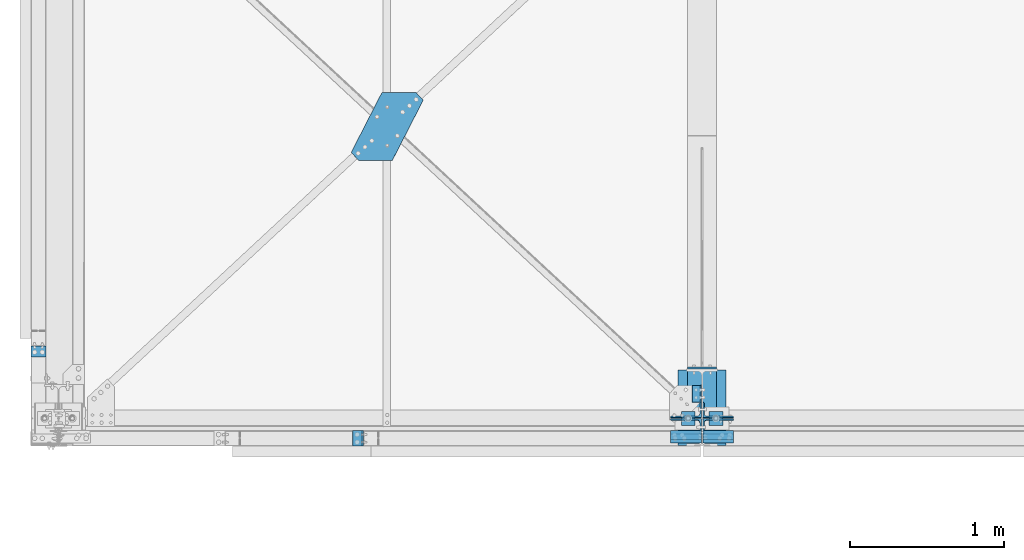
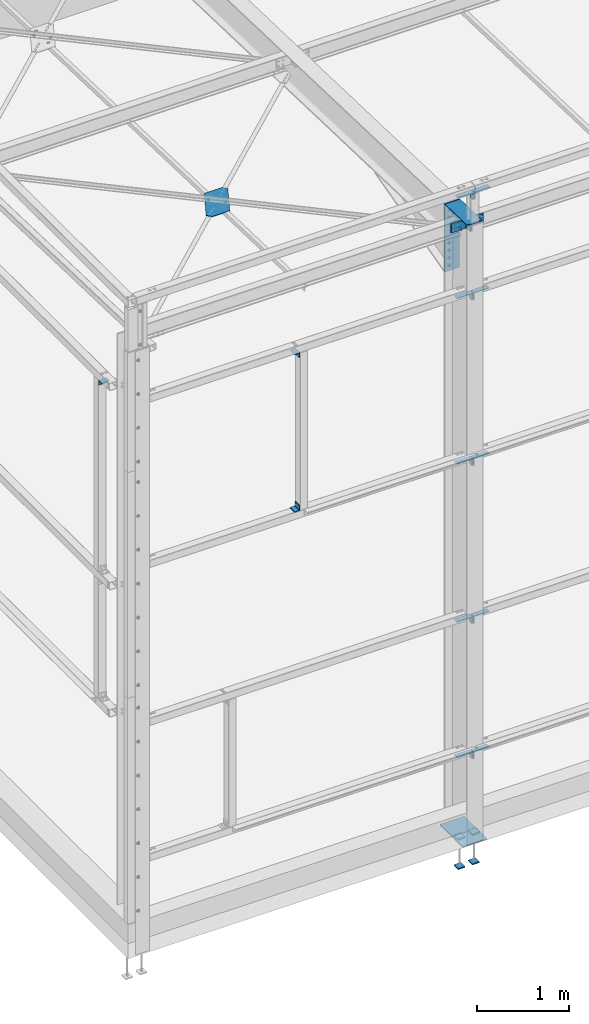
# One storey, part 62 of 362: 23 beams, 4 members, 23 elements without a shape of their own.
"""IFC2X3 building model written with IfcOpenShell, lengths in millimetres."""

from ifc_helpers import new_model, si_unit, frame, origin_with_axes, origin_2d_with_axis, place, context, subcontext, project, spatial, polyline, rectangle, l_section, outline, extrude, material, type_object, element, aggregate, save


model = new_model("IFC2X3")

# Units and contexts
model_context = context("Model", 3, precision=1e-05, world=origin_with_axes())
body_context = subcontext(model_context, "Body", "Model", "MODEL_VIEW")
ifc_project = project(units=[si_unit("LENGTHUNIT", "METRE", prefix="MILLI"), si_unit("AREAUNIT", "SQUARE_METRE"), si_unit("VOLUMEUNIT", "CUBIC_METRE"), si_unit("MASSUNIT", "GRAM", prefix="KILO"), si_unit("TIMEUNIT", "SECOND"), si_unit("PLANEANGLEUNIT", "RADIAN"), si_unit("SOLIDANGLEUNIT", "STERADIAN"), si_unit("THERMODYNAMICTEMPERATUREUNIT", "DEGREE_CELSIUS"), si_unit("LUMINOUSINTENSITYUNIT", "LUMEN")], contexts=[model_context])

# Site, building, storey
site_placement = place(None, origin_with_axes())
site = spatial("IfcSite", under=ifc_project, at=site_placement, Name="Undefined", CompositionType="ELEMENT")
building_placement = place(site_placement, origin_with_axes())
building = spatial("IfcBuilding", under=site, at=building_placement, Name="Undefined", CompositionType="ELEMENT")
storey_placement = place(building_placement, origin_with_axes())
storey = spatial("IfcBuildingStorey", under=building, at=storey_placement, Name="Undefined", CompositionType="ELEMENT", Elevation=0.0)

# Assembly, beam
assembly_1_placement = place(storey_placement, origin_with_axes())
assembly_1 = element("IfcElementAssembly", 1, at=assembly_1_placement, inside=storey, Name="Steel Assembly", AssemblyPlace="NOTDEFINED", PredefinedType="RIGID_FRAME")
ifc_material_1 = material(Name="STEEL/S235 --------------")
beam_type_1 = type_object("IfcBeamType", Name="L60*5", PredefinedType="NOTDEFINED")
beam_1_placement = place(assembly_1_placement, frame((4144.89999331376, 103.610528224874, 7810.51283147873), z_axis=(0.0, -0.0324574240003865, -0.999473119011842), x_axis=(0.0, 0.999473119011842, -0.0324574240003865)))
beam_1 = element("IfcBeam", 2, at=beam_1_placement, type_object=beam_type_1, material=ifc_material_1, Name="CORNIERE", ObjectType="L60*5", context=body_context, shape_type="SweptSolid", body=[
    extrude(l_section(Depth=60.0, Width=60.0, Thickness=5.0, FilletRadius=8.0, EdgeRadius=4.0, at=origin_2d_with_axis()), frame((109.9974094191, 0.0, 0.0), z_axis=(-1.0, 0.0, 0.0), x_axis=(0.0, -1.0, 0.0)), (0.0, 0.0, 1.0), 110.0),
])
aggregate(assembly_1, [beam_1])

assembly_2_placement = place(storey_placement, origin_with_axes())
assembly_2 = element("IfcElementAssembly", 3, at=assembly_2_placement, inside=storey, Name="Steel Assembly", AssemblyPlace="NOTDEFINED", PredefinedType="RIGID_FRAME")
beam_2_placement = place(assembly_2_placement, frame((4144.89999331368, 215.685506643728, 7872.94087723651), z_axis=(0.0, 0.0321995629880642, 0.999481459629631), x_axis=(0.0, -0.999481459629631, 0.0321995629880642)))
beam_2 = element("IfcBeam", 4, at=beam_2_placement, type_object=beam_type_1, material=ifc_material_1, Name="CORNIERE", ObjectType="L60*5", context=body_context, shape_type="SweptSolid", body=[
    extrude(l_section(Depth=60.0, Width=60.0, Thickness=5.0, FilletRadius=8.0, EdgeRadius=4.0, at=origin_2d_with_axis()), frame((110.192402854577, 0.0, 7.64613392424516e-16), z_axis=(-1.0, 0.0, 0.0), x_axis=(0.0, -1.0, 0.0)), (0.0, 0.0, 1.0), 110.19),
])
aggregate(assembly_2, [beam_2])

assembly_3_placement = place(storey_placement, origin_with_axes())
assembly_3 = element("IfcElementAssembly", 5, at=assembly_3_placement, inside=storey, AssemblyPlace="NOTDEFINED", PredefinedType="NOTDEFINED")
ifc_material_2 = material(Name="Undefined/S235-E24")
beam_type_2 = type_object("IfcBeamType", Name="L70*7", PredefinedType="NOTDEFINED")
beam_3_placement = place(assembly_3_placement, frame((-179.999995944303, 434.993384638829, 7065.00000882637), z_axis=(0.0, -1.0, 0.0), x_axis=(1.0, 0.0, 0.0)))
beam_3 = element("IfcBeam", 6, at=beam_3_placement, type_object=beam_type_2, material=ifc_material_2, Name="ATTACHE", ObjectType="L70*7", context=body_context, shape_type="SweptSolid", body=[
    extrude(l_section(Depth=70.0, Width=70.0, Thickness=7.0, FilletRadius=9.0, EdgeRadius=4.5, at=origin_2d_with_axis()), frame((99.9999999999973, -1.63709046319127e-11, 7.73070496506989e-12), z_axis=(-1.0, 0.0, 0.0), x_axis=(0.0, -1.0, 0.0)), (0.0, 0.0, 1.0), 100.0),
])
aggregate(assembly_3, [beam_3])

assembly_4_placement = place(storey_placement, origin_with_axes())
assembly_4 = element("IfcElementAssembly", 7, at=assembly_4_placement, inside=storey, AssemblyPlace="NOTDEFINED", PredefinedType="NOTDEFINED")
beam_4_placement = place(assembly_4_placement, frame((1944.99476744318, -80.0000086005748, 5035.0), z_axis=(0.0, 0.0, 1.0), x_axis=(0.0, -1.0, 0.0)))
beam_4 = element("IfcBeam", 8, at=beam_4_placement, type_object=beam_type_2, material=ifc_material_2, Name="ATTACHE", ObjectType="L70*7", context=body_context, shape_type="SweptSolid", body=[
    extrude(l_section(Depth=70.0, Width=70.0, Thickness=7.0, FilletRadius=9.0, EdgeRadius=4.5, at=origin_2d_with_axis()), frame((99.9999999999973, -1.63709046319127e-11, 7.73070496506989e-12), z_axis=(-1.0, 0.0, 0.0), x_axis=(0.0, -1.0, 0.0)), (0.0, 0.0, 1.0), 100.0),
])
aggregate(assembly_4, [beam_4])

assembly_5_placement = place(storey_placement, origin_with_axes())
assembly_5 = element("IfcElementAssembly", 9, at=assembly_5_placement, inside=storey, AssemblyPlace="NOTDEFINED", PredefinedType="NOTDEFINED")
beam_5_placement = place(assembly_5_placement, frame((1944.99476844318, -180.000008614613, 7065.0), z_axis=(0.0, 0.0, -1.0), x_axis=(0.0, 1.0, 0.0)))
beam_5 = element("IfcBeam", 10, at=beam_5_placement, type_object=beam_type_2, material=ifc_material_2, Name="ATTACHE", ObjectType="L70*7", context=body_context, shape_type="SweptSolid", body=[
    extrude(l_section(Depth=70.0, Width=70.0, Thickness=7.0, FilletRadius=9.0, EdgeRadius=4.5, at=origin_2d_with_axis()), frame((99.9999999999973, -1.63709046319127e-11, 7.73070496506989e-12), z_axis=(-1.0, 0.0, 0.0), x_axis=(0.0, -1.0, 0.0)), (0.0, 0.0, 1.0), 100.0),
])
aggregate(assembly_5, [beam_5])

assembly_6_placement = place(storey_placement, origin_with_axes())
assembly_6 = element("IfcElementAssembly", 11, at=assembly_6_placement, inside=storey, AssemblyPlace="NOTDEFINED", PredefinedType="NOTDEFINED")
beam_type_3 = type_object("IfcBeamType", Name="TOLE6*262", PredefinedType="NOTDEFINED")
beam_6_placement = place(assembly_6_placement, frame((2321.30220508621, 2117.62478728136, 7780.3566713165), z_axis=(7.58071938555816e-11, 0.0314107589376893, 0.999506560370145), x_axis=(-1.0, 0.0, 0.0)))
beam_6 = element("IfcBeam", 12, at=beam_6_placement, type_object=beam_type_3, material=ifc_material_2, Name="GOUSSET", ObjectType="TOLE6*262", context=body_context, shape_type="SweptSolid", body=[
    extrude(outline(polyline([(0.0, 0.0), (219.999999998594, -9.93168214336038e-10), (420.263031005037, 390.657226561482), (372.604370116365, 441.927673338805), (152.604415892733, 441.927612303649), (-47.6586227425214, 51.2704162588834), (0.0, 0.0)])), frame((0.0, 0.0, -3.0), z_axis=(0.0, 0.0, 1.0), x_axis=(1.0, 0.0, 0.0)), (0.0, 0.0, 1.0), 6.0),
])
aggregate(assembly_6, [beam_6])

# Assembly, member
assembly_7_placement = place(storey_placement, origin_with_axes())
assembly_7 = element("IfcElementAssembly", 13, at=assembly_7_placement, inside=storey, AssemblyPlace="NOTDEFINED", PredefinedType="NOTDEFINED")
member_type = type_object("IfcMemberType", Name="L200*100*10", PredefinedType="NOTDEFINED")
member_1_placement = place(assembly_7_placement, frame((4075.00000000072, 54.8594764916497, 8008.25789802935), z_axis=(-1.0, 0.0, 0.0), x_axis=(-1.05403257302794e-09, -0.0314112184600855, -0.999506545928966)))
member_1 = element("IfcMember", 14, at=member_1_placement, type_object=member_type, material=ifc_material_2, Name="ATTACHE", ObjectType="L200*100*10", context=body_context, shape_type="SweptSolid", body=[
    extrude(l_section(Depth=200.0, Width=100.0, Thickness=10.0, FilletRadius=15.0, EdgeRadius=7.5, at=origin_2d_with_axis()), frame((120.0, 0.0, 0.0), z_axis=(-1.0, 0.0, 0.0), x_axis=(0.0, -1.0, 0.0)), (0.0, 0.0, 1.0), 120.0),
])
aggregate(assembly_7, [member_1])

assembly_8_placement = place(storey_placement, origin_with_axes())
assembly_8 = element("IfcElementAssembly", 15, at=assembly_8_placement, inside=storey, AssemblyPlace="NOTDEFINED", PredefinedType="NOTDEFINED")
member_2_placement = place(assembly_8_placement, frame((4285.00000000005, 51.0901303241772, 7888.3171125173), z_axis=(1.0, 0.0, 0.0), x_axis=(7.58071938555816e-11, 0.0314107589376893, 0.999506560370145)))
member_2 = element("IfcMember", 16, at=member_2_placement, type_object=member_type, material=ifc_material_2, Name="ATTACHE", ObjectType="L200*100*10", context=body_context, shape_type="SweptSolid", body=[
    extrude(l_section(Depth=200.0, Width=100.0, Thickness=10.0, FilletRadius=15.0, EdgeRadius=7.5, at=origin_2d_with_axis()), frame((120.0, 0.0, 0.0), z_axis=(-1.0, 0.0, 0.0), x_axis=(0.0, -1.0, 0.0)), (0.0, 0.0, 1.0), 120.0),
])
aggregate(assembly_8, [member_2])

assembly_9_placement = place(storey_placement, origin_with_axes())
assembly_9 = element("IfcElementAssembly", 17, at=assembly_9_placement, inside=storey, AssemblyPlace="NOTDEFINED", PredefinedType="NOTDEFINED")
member_3_placement = place(assembly_9_placement, frame((4075.00000000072, -54.8584254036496, 7891.64672871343), z_axis=(-1.0, 0.0, 0.0), x_axis=(7.58071938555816e-11, 0.0314107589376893, 0.999506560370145)))
member_3 = element("IfcMember", 18, at=member_3_placement, type_object=member_type, material=ifc_material_2, Name="ATTACHE", ObjectType="L200*100*10", context=body_context, shape_type="SweptSolid", body=[
    extrude(l_section(Depth=200.0, Width=100.0, Thickness=10.0, FilletRadius=15.0, EdgeRadius=7.5, at=origin_2d_with_axis()), frame((120.0, 0.0, 0.0), z_axis=(-1.0, 0.0, 0.0), x_axis=(0.0, -1.0, 0.0)), (0.0, 0.0, 1.0), 120.0),
])
aggregate(assembly_9, [member_3])

assembly_10_placement = place(storey_placement, origin_with_axes())
assembly_10 = element("IfcElementAssembly", 19, at=assembly_10_placement, inside=storey, AssemblyPlace="NOTDEFINED", PredefinedType="NOTDEFINED")
member_4_placement = place(assembly_10_placement, frame((4285.00000000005, -51.0890792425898, 8011.58751422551), z_axis=(1.0, 0.0, 0.0), x_axis=(-1.05403257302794e-09, -0.0314112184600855, -0.999506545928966)))
member_4 = element("IfcMember", 20, at=member_4_placement, type_object=member_type, material=ifc_material_2, Name="ATTACHE", ObjectType="L200*100*10", context=body_context, shape_type="SweptSolid", body=[
    extrude(l_section(Depth=200.0, Width=100.0, Thickness=10.0, FilletRadius=15.0, EdgeRadius=7.5, at=origin_2d_with_axis()), frame((120.0, 0.0, 0.0), z_axis=(-1.0, 0.0, 0.0), x_axis=(0.0, -1.0, 0.0)), (0.0, 0.0, 1.0), 120.0),
])
aggregate(assembly_10, [member_4])

# Assembly, beam
assembly_11_placement = place(storey_placement, origin_with_axes())
assembly_11 = element("IfcElementAssembly", 21, at=assembly_11_placement, inside=storey, AssemblyPlace="NOTDEFINED", PredefinedType="NOTDEFINED")
beam_type_4 = type_object("IfcBeamType", Name="L200*100*10", PredefinedType="NOTDEFINED")
beam_7_placement = place(assembly_11_placement, frame((4075.00000320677, -100.00000666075, 8400.0), z_axis=(-1.0, 0.0, 0.0), x_axis=(0.0, -1.0, 0.0)))
beam_7 = element("IfcBeam", 22, at=beam_7_placement, type_object=beam_type_4, material=ifc_material_2, Name="ATTACHE", ObjectType="L200*100*10", context=body_context, shape_type="SweptSolid", body=[
    extrude(l_section(Depth=200.0, Width=100.0, Thickness=10.0, FilletRadius=15.0, EdgeRadius=7.5, at=origin_2d_with_axis()), frame((60.0, 0.0, 0.0), z_axis=(-1.0, 0.0, 0.0), x_axis=(0.0, -1.0, 0.0)), (0.0, 0.0, 1.0), 60.0),
])
aggregate(assembly_11, [beam_7])

assembly_12_placement = place(storey_placement, origin_with_axes())
assembly_12 = element("IfcElementAssembly", 23, at=assembly_12_placement, inside=storey, AssemblyPlace="NOTDEFINED", PredefinedType="NOTDEFINED")
beam_8_placement = place(assembly_12_placement, frame((4285.00000308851, -160.000007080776, 8400.0), z_axis=(1.0, 0.0, 0.0), x_axis=(0.0, 1.0, 0.0)))
beam_8 = element("IfcBeam", 24, at=beam_8_placement, type_object=beam_type_4, material=ifc_material_2, Name="ATTACHE", ObjectType="L200*100*10", context=body_context, shape_type="SweptSolid", body=[
    extrude(l_section(Depth=200.0, Width=100.0, Thickness=10.0, FilletRadius=15.0, EdgeRadius=7.5, at=origin_2d_with_axis()), frame((60.0, 0.0, 0.0), z_axis=(-1.0, 0.0, 0.0), x_axis=(0.0, -1.0, 0.0)), (0.0, 0.0, 1.0), 60.0),
])
aggregate(assembly_12, [beam_8])

assembly_13_placement = place(storey_placement, origin_with_axes())
assembly_13 = element("IfcElementAssembly", 25, at=assembly_13_placement, inside=storey, AssemblyPlace="NOTDEFINED", PredefinedType="NOTDEFINED")
beam_9_placement = place(assembly_13_placement, frame((4075.0000032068, -80.000006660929, 950.0), z_axis=(-1.0, 0.0, 0.0), x_axis=(0.0, -1.0, 0.0)))
beam_9 = element("IfcBeam", 26, at=beam_9_placement, type_object=beam_type_4, material=ifc_material_2, Name="ATTACHE", ObjectType="L200*100*10", context=body_context, shape_type="SweptSolid", body=[
    extrude(l_section(Depth=200.0, Width=100.0, Thickness=10.0, FilletRadius=15.0, EdgeRadius=7.5, at=origin_2d_with_axis()), frame((60.0, 0.0, 0.0), z_axis=(-1.0, 0.0, 0.0), x_axis=(0.0, -1.0, 0.0)), (0.0, 0.0, 1.0), 60.0),
])
aggregate(assembly_13, [beam_9])

assembly_14_placement = place(storey_placement, origin_with_axes())
assembly_14 = element("IfcElementAssembly", 27, at=assembly_14_placement, inside=storey, AssemblyPlace="NOTDEFINED", PredefinedType="NOTDEFINED")
beam_10_placement = place(assembly_14_placement, frame((4285.00000308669, -140.000007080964, 950.0), z_axis=(1.0, 0.0, 0.0), x_axis=(0.0, 1.0, 0.0)))
beam_10 = element("IfcBeam", 28, at=beam_10_placement, type_object=beam_type_4, material=ifc_material_2, Name="ATTACHE", ObjectType="L200*100*10", context=body_context, shape_type="SweptSolid", body=[
    extrude(l_section(Depth=200.0, Width=100.0, Thickness=10.0, FilletRadius=15.0, EdgeRadius=7.5, at=origin_2d_with_axis()), frame((60.0, 0.0, 0.0), z_axis=(-1.0, 0.0, 0.0), x_axis=(0.0, -1.0, 0.0)), (0.0, 0.0, 1.0), 60.0),
])
aggregate(assembly_14, [beam_10])

assembly_15_placement = place(storey_placement, origin_with_axes())
assembly_15 = element("IfcElementAssembly", 29, at=assembly_15_placement, inside=storey, AssemblyPlace="NOTDEFINED", PredefinedType="NOTDEFINED")
beam_11_placement = place(assembly_15_placement, frame((4075.0000032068, -80.000006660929, 2750.0), z_axis=(-1.0, 0.0, 0.0), x_axis=(0.0, -1.0, 0.0)))
beam_11 = element("IfcBeam", 30, at=beam_11_placement, type_object=beam_type_4, material=ifc_material_2, Name="ATTACHE", ObjectType="L200*100*10", context=body_context, shape_type="SweptSolid", body=[
    extrude(l_section(Depth=200.0, Width=100.0, Thickness=10.0, FilletRadius=15.0, EdgeRadius=7.5, at=origin_2d_with_axis()), frame((60.0, 0.0, 0.0), z_axis=(-1.0, 0.0, 0.0), x_axis=(0.0, -1.0, 0.0)), (0.0, 0.0, 1.0), 60.0),
])
aggregate(assembly_15, [beam_11])

assembly_16_placement = place(storey_placement, origin_with_axes())
assembly_16 = element("IfcElementAssembly", 31, at=assembly_16_placement, inside=storey, AssemblyPlace="NOTDEFINED", PredefinedType="NOTDEFINED")
beam_12_placement = place(assembly_16_placement, frame((4285.00000308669, -140.000007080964, 2750.0), z_axis=(1.0, 0.0, 0.0), x_axis=(0.0, 1.0, 0.0)))
beam_12 = element("IfcBeam", 32, at=beam_12_placement, type_object=beam_type_4, material=ifc_material_2, Name="ATTACHE", ObjectType="L200*100*10", context=body_context, shape_type="SweptSolid", body=[
    extrude(l_section(Depth=200.0, Width=100.0, Thickness=10.0, FilletRadius=15.0, EdgeRadius=7.5, at=origin_2d_with_axis()), frame((60.0, 0.0, 0.0), z_axis=(-1.0, 0.0, 0.0), x_axis=(0.0, -1.0, 0.0)), (0.0, 0.0, 1.0), 60.0),
])
aggregate(assembly_16, [beam_12])

assembly_17_placement = place(storey_placement, origin_with_axes())
assembly_17 = element("IfcElementAssembly", 33, at=assembly_17_placement, inside=storey, AssemblyPlace="NOTDEFINED", PredefinedType="NOTDEFINED")
beam_13_placement = place(assembly_17_placement, frame((4075.0000032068, -80.000006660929, 4850.0), z_axis=(-1.0, 0.0, 0.0), x_axis=(0.0, -1.0, 0.0)))
beam_13 = element("IfcBeam", 34, at=beam_13_placement, type_object=beam_type_4, material=ifc_material_2, Name="ATTACHE", ObjectType="L200*100*10", context=body_context, shape_type="SweptSolid", body=[
    extrude(l_section(Depth=200.0, Width=100.0, Thickness=10.0, FilletRadius=15.0, EdgeRadius=7.5, at=origin_2d_with_axis()), frame((60.0, 0.0, 0.0), z_axis=(-1.0, 0.0, 0.0), x_axis=(0.0, -1.0, 0.0)), (0.0, 0.0, 1.0), 60.0),
])
aggregate(assembly_17, [beam_13])

assembly_18_placement = place(storey_placement, origin_with_axes())
assembly_18 = element("IfcElementAssembly", 35, at=assembly_18_placement, inside=storey, AssemblyPlace="NOTDEFINED", PredefinedType="NOTDEFINED")
beam_14_placement = place(assembly_18_placement, frame((4285.00000308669, -140.000007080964, 4850.0), z_axis=(1.0, 0.0, 0.0), x_axis=(0.0, 1.0, 0.0)))
beam_14 = element("IfcBeam", 36, at=beam_14_placement, type_object=beam_type_4, material=ifc_material_2, Name="ATTACHE", ObjectType="L200*100*10", context=body_context, shape_type="SweptSolid", body=[
    extrude(l_section(Depth=200.0, Width=100.0, Thickness=10.0, FilletRadius=15.0, EdgeRadius=7.5, at=origin_2d_with_axis()), frame((60.0, 0.0, 0.0), z_axis=(-1.0, 0.0, 0.0), x_axis=(0.0, -1.0, 0.0)), (0.0, 0.0, 1.0), 60.0),
])
aggregate(assembly_18, [beam_14])

assembly_19_placement = place(storey_placement, origin_with_axes())
assembly_19 = element("IfcElementAssembly", 37, at=assembly_19_placement, inside=storey, AssemblyPlace="NOTDEFINED", PredefinedType="NOTDEFINED")
beam_15_placement = place(assembly_19_placement, frame((4075.0000032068, -80.000006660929, 7050.0), z_axis=(-1.0, 0.0, 0.0), x_axis=(0.0, -1.0, 0.0)))
beam_15 = element("IfcBeam", 38, at=beam_15_placement, type_object=beam_type_4, material=ifc_material_2, Name="ATTACHE", ObjectType="L200*100*10", context=body_context, shape_type="SweptSolid", body=[
    extrude(l_section(Depth=200.0, Width=100.0, Thickness=10.0, FilletRadius=15.0, EdgeRadius=7.5, at=origin_2d_with_axis()), frame((60.0, 0.0, 0.0), z_axis=(-1.0, 0.0, 0.0), x_axis=(0.0, -1.0, 0.0)), (0.0, 0.0, 1.0), 60.0),
])
aggregate(assembly_19, [beam_15])

assembly_20_placement = place(storey_placement, origin_with_axes())
assembly_20 = element("IfcElementAssembly", 39, at=assembly_20_placement, inside=storey, AssemblyPlace="NOTDEFINED", PredefinedType="NOTDEFINED")
beam_16_placement = place(assembly_20_placement, frame((4285.00000308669, -140.000007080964, 7050.0), z_axis=(1.0, 0.0, 0.0), x_axis=(0.0, 1.0, 0.0)))
beam_16 = element("IfcBeam", 40, at=beam_16_placement, type_object=beam_type_4, material=ifc_material_2, Name="ATTACHE", ObjectType="L200*100*10", context=body_context, shape_type="SweptSolid", body=[
    extrude(l_section(Depth=200.0, Width=100.0, Thickness=10.0, FilletRadius=15.0, EdgeRadius=7.5, at=origin_2d_with_axis()), frame((60.0, 0.0, 0.0), z_axis=(-1.0, 0.0, 0.0), x_axis=(0.0, -1.0, 0.0)), (0.0, 0.0, 1.0), 60.0),
])
aggregate(assembly_20, [beam_16])

assembly_21_placement = place(storey_placement, origin_with_axes())
assembly_21 = element("IfcElementAssembly", 41, at=assembly_21_placement, inside=storey, Name="TRAVERSE", AssemblyPlace="NOTDEFINED", PredefinedType="NOTDEFINED")
beam_type_5 = type_object("IfcBeamType", Name="PL15*190", PredefinedType="NOTDEFINED")
beam_17_placement = place(assembly_21_placement, frame((4180.0, 327.5, 8029.93865805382), z_axis=(1.0, 0.0, 0.0), x_axis=(0.0, 0.0, -1.0)))
beam_17 = element("IfcBeam", 42, at=beam_17_placement, type_object=beam_type_5, material=ifc_material_2, Name="PLATINE", ObjectType="PL15*190", context=body_context, shape_type="SweptSolid", body=[
    extrude(rectangle(XDim=15.0, YDim=190.0, at=origin_2d_with_axis()), frame((900.000000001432, 9.99200722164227e-14, 0.0), z_axis=(-1.0, 0.0, 0.0), x_axis=(0.0, -1.0, 0.0)), (0.0, 0.0, 1.0), 900.0),
])
aggregate(assembly_21, [beam_17])

# Assembly, beams
assembly_22_placement = place(storey_placement, origin_with_axes())
assembly_22 = element("IfcElementAssembly", 43, at=assembly_22_placement, inside=storey, Name="POTEAU", AssemblyPlace="NOTDEFINED", PredefinedType="NOTDEFINED")
beam_type_6 = type_object("IfcBeamType", Name="PL10*190", PredefinedType="NOTDEFINED")
beam_18_placement = place(assembly_22_placement, frame((4180.0000000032, 312.157053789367, 8035.18760098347), z_axis=(-1.0, 0.0, 0.0), x_axis=(0.0, -0.999506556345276, 0.031410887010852)))
beam_18 = element("IfcBeam", 44, at=beam_18_placement, type_object=beam_type_6, material=ifc_material_2, Name="COIFFE", ObjectType="PL10*190", context=body_context, shape_type="SweptSolid", body=[
    extrude(rectangle(XDim=10.0, YDim=190.0, at=origin_2d_with_axis()), frame((484.238942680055, 0.0, 0.0), z_axis=(-1.0, 0.0, 0.0), x_axis=(0.0, -1.0, 0.0)), (0.0, 0.0, 1.0), 484.24),
])
beam_type_7 = type_object("IfcBeamType", Name="PL15*490", PredefinedType="NOTDEFINED")
beam_19_placement = place(assembly_22_placement, frame((4334.99715044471, 70.0, -192.5), z_axis=(0.0, -1.0, 0.0), x_axis=(-1.0, 0.0, 0.0)))
beam_19 = element("IfcBeam", 45, at=beam_19_placement, type_object=beam_type_7, material=ifc_material_2, Name="PLATINE", ObjectType="PL15*490", context=body_context, shape_type="SweptSolid", body=[
    extrude(rectangle(XDim=15.0, YDim=490.0, at=origin_2d_with_axis()), frame((310.0, 0.0, 0.0), z_axis=(-1.0, 0.0, 0.0), x_axis=(0.0, -1.0, 0.0)), (0.0, 0.0, 1.0), 310.0),
])
aggregate(assembly_22, [beam_18, beam_19])

assembly_23_placement = place(storey_placement, origin_with_axes())
assembly_23 = element("IfcElementAssembly", 46, at=assembly_23_placement, inside=storey, Name="PRESCELLEMENT PS24", AssemblyPlace="NOTDEFINED", PredefinedType="NOTDEFINED")
beam_type_8 = type_object("IfcBeamType", Name="PL15*90", PredefinedType="NOTDEFINED")
beam_20_placement = place(assembly_23_placement, frame((4134.99715044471, -45.0, -177.5), z_axis=(0.0, 0.0, 1.0), x_axis=(0.0, 1.0, 0.0)))
beam_20 = element("IfcBeam", 47, at=beam_20_placement, type_object=beam_type_8, material=ifc_material_2, Name="PLAQUETTE", ObjectType="PL15*90", context=body_context, shape_type="SweptSolid", body=[
    extrude(outline(polyline([(0.0, 0.0), (90.0, 0.0), (90.0, 90.0), (0.0, 90.0), (0.0, 0.0)])), frame((0.0, 0.0, -7.5), z_axis=(0.0, 0.0, 1.0), x_axis=(1.0, 0.0, 0.0)), (0.0, 0.0, 1.0), 15.0),
])
beam_21_placement = place(assembly_23_placement, frame((4314.99715044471, -45.0, -177.5), z_axis=(0.0, 0.0, 1.0), x_axis=(0.0, 1.0, 0.0)))
beam_21 = element("IfcBeam", 48, at=beam_21_placement, type_object=beam_type_8, material=ifc_material_2, Name="PLAQUETTE", ObjectType="PL15*90", context=body_context, shape_type="SweptSolid", body=[
    extrude(outline(polyline([(0.0, 0.0), (90.0, 0.0), (90.0, 90.0), (0.0, 90.0), (0.0, 0.0)])), frame((0.0, 0.0, -7.5), z_axis=(0.0, 0.0, 1.0), x_axis=(1.0, 0.0, 0.0)), (0.0, 0.0, 1.0), 15.0),
])
beam_22_placement = place(assembly_23_placement, frame((4134.99715044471, -45.0, -572.5), z_axis=(0.0, 0.0, 1.0), x_axis=(0.0, 1.0, 0.0)))
beam_22 = element("IfcBeam", 49, at=beam_22_placement, type_object=beam_type_8, material=ifc_material_2, Name="PLAQUETTE", ObjectType="PL15*90", context=body_context, shape_type="SweptSolid", body=[
    extrude(outline(polyline([(0.0, 0.0), (90.0, 0.0), (90.0, 90.0), (0.0, 90.0), (0.0, 0.0)])), frame((0.0, 0.0, -7.5), z_axis=(0.0, 0.0, 1.0), x_axis=(1.0, 0.0, 0.0)), (0.0, 0.0, 1.0), 15.0),
])
beam_23_placement = place(assembly_23_placement, frame((4314.99715044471, -45.0, -572.5), z_axis=(0.0, 0.0, 1.0), x_axis=(0.0, 1.0, 0.0)))
beam_23 = element("IfcBeam", 50, at=beam_23_placement, type_object=beam_type_8, material=ifc_material_2, Name="PLAQUETTE", ObjectType="PL15*90", context=body_context, shape_type="SweptSolid", body=[
    extrude(outline(polyline([(0.0, 0.0), (90.0, 0.0), (90.0, 90.0), (0.0, 90.0), (0.0, 0.0)])), frame((0.0, 0.0, -7.5), z_axis=(0.0, 0.0, 1.0), x_axis=(1.0, 0.0, 0.0)), (0.0, 0.0, 1.0), 15.0),
])
aggregate(assembly_23, [beam_20, beam_21, beam_22, beam_23])

save(model, "model.ifc")
